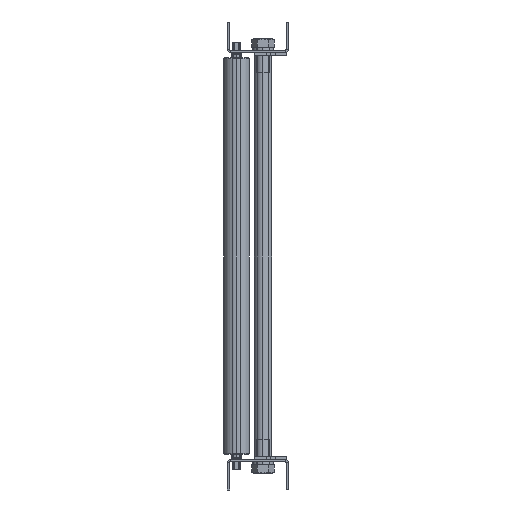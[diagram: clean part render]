
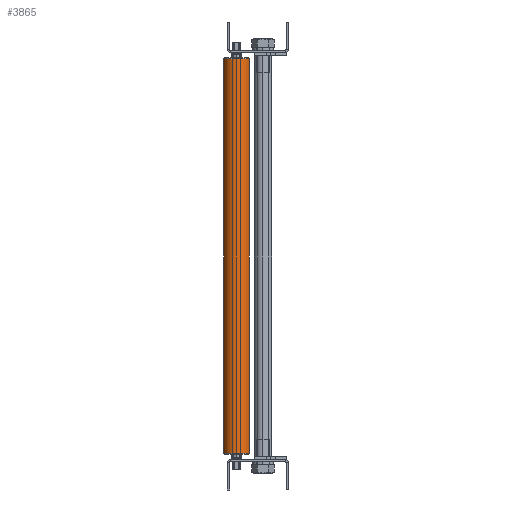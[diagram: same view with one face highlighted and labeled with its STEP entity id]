
A CAD part, left-side view. The second image highlights one B-rep face of the part: STEP entity #3865.
In plain terms, the highlighted cylindrical face has radius 12.7 mm (diameter 25.4 mm), a partial arc.
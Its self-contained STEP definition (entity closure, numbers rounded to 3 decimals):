
#3865 = ADVANCED_FACE ( 'NONE', ( #71591 ), #110634, .T. ) ;
#11006 = CARTESIAN_POINT ( 'NONE',  ( -1256.99, 214.85, -20.1 ) ) ;
#11060 = CARTESIAN_POINT ( 'NONE',  ( -1259.107, 227.373, -20.1 ) ) ;
#11835 = VECTOR ( 'NONE', #43789, 1000. ) ;
#14771 = CARTESIAN_POINT ( 'NONE',  ( -1259.107, 227.373, 325.941 ) ) ;
#20475 = DIRECTION ( 'NONE',  ( 0., 0., -1. ) ) ;
#23356 = VERTEX_POINT ( 'NONE', #103131 ) ;
#32496 = DIRECTION ( 'NONE',  ( 0., 0., 1. ) ) ;
#35399 = EDGE_CURVE ( 'NONE', #23356, #110066, #50005, .T. ) ;
#43789 = DIRECTION ( 'NONE',  ( 0., 0., 1. ) ) ;
#45866 = VECTOR ( 'NONE', #92692, 1000. ) ;
#50005 = CIRCLE ( 'NONE', #120476, 12.7 ) ;
#54219 = LINE ( 'NONE', #73802, #45866 ) ;
#57415 = AXIS2_PLACEMENT_3D ( 'NONE', #11006, #20475, #103926 ) ;
#60859 = CARTESIAN_POINT ( 'NONE',  ( -1256.99, 214.85, 325.941 ) ) ;
#62033 = CARTESIAN_POINT ( 'NONE',  ( -1254.873, 202.328, -408.1 ) ) ;
#62722 = LINE ( 'NONE', #14771, #11835 ) ;
#65478 = EDGE_CURVE ( 'NONE', #110066, #112498, #54219, .T. ) ;
#66132 = DIRECTION ( 'NONE',  ( -0.167, 0.986, 0. ) ) ;
#67233 = ORIENTED_EDGE ( 'NONE', *, *, #65478, .T. ) ;
#67405 = CARTESIAN_POINT ( 'NONE',  ( -1256.99, 214.85, -408.1 ) ) ;
#71591 = FACE_OUTER_BOUND ( 'NONE', #101959, .T. ) ;
#73052 = EDGE_CURVE ( 'NONE', #112498, #79910, #75567, .T. ) ;
#73802 = CARTESIAN_POINT ( 'NONE',  ( -1254.873, 202.328, 325.941 ) ) ;
#75567 = CIRCLE ( 'NONE', #57415, 12.7 ) ;
#79910 = VERTEX_POINT ( 'NONE', #11060 ) ;
#84113 = ORIENTED_EDGE ( 'NONE', *, *, #113719, .F. ) ;
#92692 = DIRECTION ( 'NONE',  ( 0., 0., 1. ) ) ;
#92944 = CARTESIAN_POINT ( 'NONE',  ( -1254.873, 202.328, -20.1 ) ) ;
#94545 = AXIS2_PLACEMENT_3D ( 'NONE', #60859, #32496, #99943 ) ;
#99943 = DIRECTION ( 'NONE',  ( -0.167, 0.986, 0. ) ) ;
#101959 = EDGE_LOOP ( 'NONE', ( #117939, #67233, #121657, #84113 ) ) ;
#103131 = CARTESIAN_POINT ( 'NONE',  ( -1259.107, 227.373, -408.1 ) ) ;
#103368 = DIRECTION ( 'NONE',  ( 0., 0., 1. ) ) ;
#103926 = DIRECTION ( 'NONE',  ( 0.167, -0.986, 0. ) ) ;
#110066 = VERTEX_POINT ( 'NONE', #62033 ) ;
#110634 = CYLINDRICAL_SURFACE ( 'NONE', #94545, 12.7 ) ;
#112498 = VERTEX_POINT ( 'NONE', #92944 ) ;
#113719 = EDGE_CURVE ( 'NONE', #23356, #79910, #62722, .T. ) ;
#117939 = ORIENTED_EDGE ( 'NONE', *, *, #35399, .T. ) ;
#120476 = AXIS2_PLACEMENT_3D ( 'NONE', #67405, #103368, #66132 ) ;
#121657 = ORIENTED_EDGE ( 'NONE', *, *, #73052, .T. ) ;
